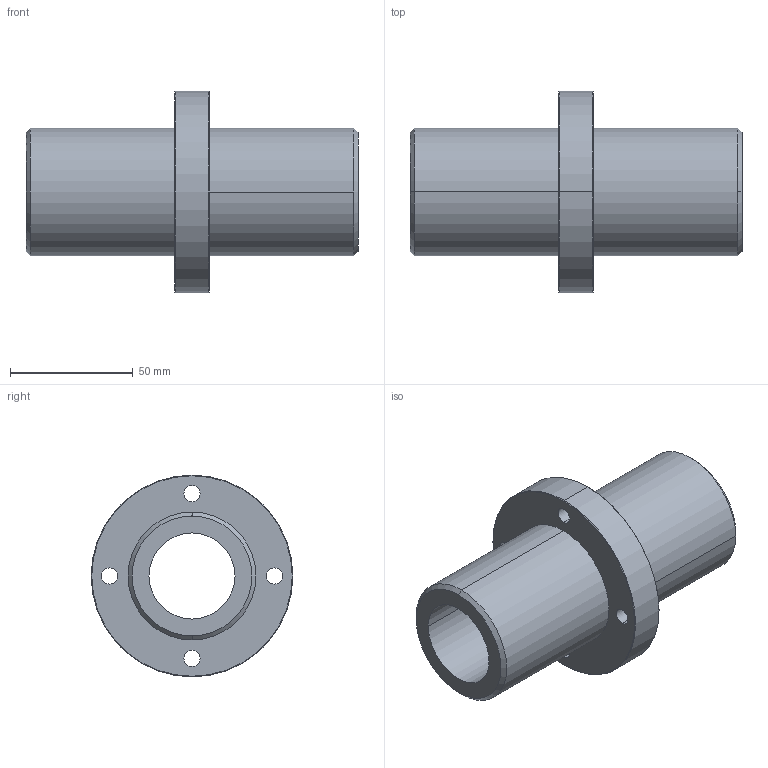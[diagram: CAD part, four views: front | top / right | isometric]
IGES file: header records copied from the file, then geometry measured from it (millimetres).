
Start section: 3D InterOp IGES (Version 21 0 1), Spatial Corp. Copyright (c) 1999-2007.
Global section: file name: CFPJR35.igs; native system: Spatial Corp.; preprocessor: 3D InterOp GENERIC/IGES 3.0; author: Noname; organization: Noname; date: 20220324.131454; units: millimetre
Bounding box: 135 x 82 x 82 mm (x, y, z)
Surface area: 47680.3 mm2 (no closed solid volume)
Topology: 0 solids, 0 shells, 40 faces, 180 edges, 180 vertices
Faces by surface type: revolution 32, extrusion 8
